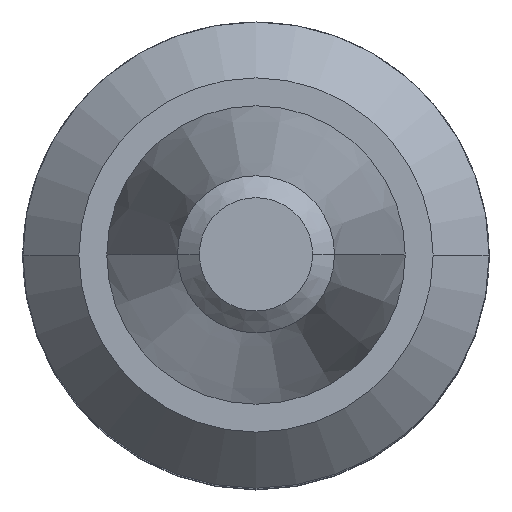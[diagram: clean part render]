
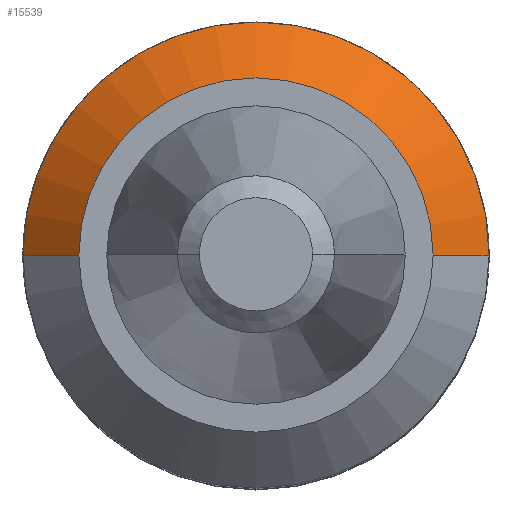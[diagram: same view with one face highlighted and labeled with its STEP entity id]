
A CAD part, top view. The second image highlights one B-rep face of the part: STEP entity #15539.
In plain terms, the highlighted conical face has half-angle 45 degrees and reference radius 3.174 mm.
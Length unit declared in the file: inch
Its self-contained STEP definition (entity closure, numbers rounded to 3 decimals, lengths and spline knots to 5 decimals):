
#14 = DIRECTION ( 'NONE',  ( 0., 0., -1. ) ) ;
#349 = EDGE_CURVE ( 'NONE', #14296, #13144, #7084, .T. ) ;
#498 = CARTESIAN_POINT ( 'NONE',  ( 0.12495, 0., -0.03 ) ) ;
#1180 = DIRECTION ( 'NONE',  ( 1., 0., 0. ) ) ;
#2412 = DIRECTION ( 'NONE',  ( -0.707, 0., -0.707 ) ) ;
#3175 = EDGE_CURVE ( 'NONE', #5561, #9336, #9385, .T. ) ;
#3474 = EDGE_CURVE ( 'NONE', #9336, #13144, #15021, .T. ) ;
#4210 = DIRECTION ( 'NONE',  ( 0., 0., 1. ) ) ;
#5423 = ORIENTED_EDGE ( 'NONE', *, *, #19179, .F. ) ;
#5426 = CARTESIAN_POINT ( 'NONE',  ( -0.12495, 0., -0.03 ) ) ;
#5561 = VERTEX_POINT ( 'NONE', #18242 ) ;
#5693 = DIRECTION ( 'NONE',  ( -1., 0., 0. ) ) ;
#6464 = DIRECTION ( 'NONE',  ( 0.707, 0., -0.707 ) ) ;
#6857 = AXIS2_PLACEMENT_3D ( 'NONE', #10058, #4210, #1180 ) ;
#7084 = LINE ( 'NONE', #5426, #8042 ) ;
#7660 = CARTESIAN_POINT ( 'NONE',  ( 0., 0., -0.03 ) ) ;
#8042 = VECTOR ( 'NONE', #2412, 39.37008 ) ;
#8942 = ORIENTED_EDGE ( 'NONE', *, *, #349, .F. ) ;
#9336 = VERTEX_POINT ( 'NONE', #498 ) ;
#9385 = LINE ( 'NONE', #16690, #13474 ) ;
#9454 = ORIENTED_EDGE ( 'NONE', *, *, #3175, .T. ) ;
#10005 = AXIS2_PLACEMENT_3D ( 'NONE', #7660, #12990, #11422 ) ;
#10058 = CARTESIAN_POINT ( 'NONE',  ( 0., 0., 0. ) ) ;
#11422 = DIRECTION ( 'NONE',  ( 1., 0., 0. ) ) ;
#12990 = DIRECTION ( 'NONE',  ( 0., 0., 1. ) ) ;
#13144 = VERTEX_POINT ( 'NONE', #15965 ) ;
#13474 = VECTOR ( 'NONE', #6464, 39.37008 ) ;
#13753 = CIRCLE ( 'NONE', #6857, 0.09495 ) ;
#13761 = CARTESIAN_POINT ( 'NONE',  ( -0.09495, 0., 0. ) ) ;
#14296 = VERTEX_POINT ( 'NONE', #13761 ) ;
#14445 = AXIS2_PLACEMENT_3D ( 'NONE', #19103, #14, #5693 ) ;
#15021 = CIRCLE ( 'NONE', #10005, 0.12495 ) ;
#15539 = ADVANCED_FACE ( 'NONE', ( #16579 ), #17537, .T. ) ;
#15965 = CARTESIAN_POINT ( 'NONE',  ( -0.12495, 0., -0.03 ) ) ;
#16579 = FACE_OUTER_BOUND ( 'NONE', #17247, .T. ) ;
#16690 = CARTESIAN_POINT ( 'NONE',  ( 0.12495, 0., -0.03 ) ) ;
#17247 = EDGE_LOOP ( 'NONE', ( #5423, #9454, #18560, #8942 ) ) ;
#17537 = CONICAL_SURFACE ( 'NONE', #14445, 0.12495, 0.785 ) ;
#18242 = CARTESIAN_POINT ( 'NONE',  ( 0.09495, 0., 0. ) ) ;
#18560 = ORIENTED_EDGE ( 'NONE', *, *, #3474, .T. ) ;
#19103 = CARTESIAN_POINT ( 'NONE',  ( 0., 0., -0.03 ) ) ;
#19179 = EDGE_CURVE ( 'NONE', #5561, #14296, #13753, .T. ) ;
